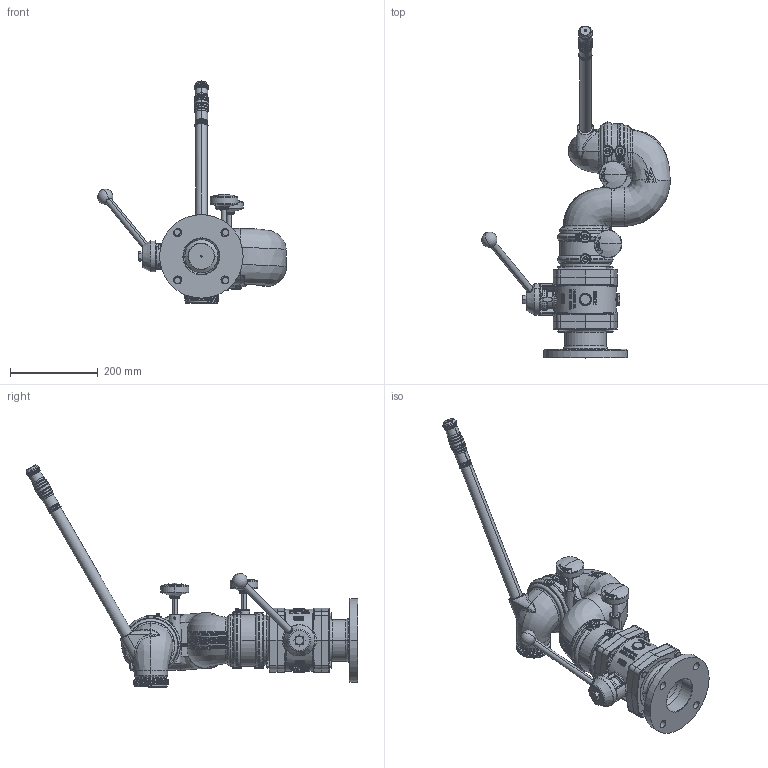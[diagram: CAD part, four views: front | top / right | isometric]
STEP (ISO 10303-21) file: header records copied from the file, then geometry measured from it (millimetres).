
FILE_DESCRIPTION((''),'2;1');
FILE_NAME('3INCH_SW0001','2012-10-25T',('jhabe'),(''),'PRO/ENGINEER BY PARAMETRIC TECHNOLOGY CORPORATION, 2011310','PRO/ENGINEER BY PARAMETRIC TECHNOLOGY CORPORATION, 2011310','');
FILE_SCHEMA(('CONFIG_CONTROL_DESIGN'));
Products named in the file (1): 3INCH_SW0001
Bounding box: 429.99 x 755.97 x 506.11 mm (x, y, z)
Surface area: 887588.5 mm2 (no closed solid volume)
Topology: 0 solids, 93 shells, 2091 faces, 8118 edges, 5969 vertices
Faces by surface type: plane 671, bspline 508, cylinder 390, cone 242, torus 241, sphere 38, extrusion 1
Entity records: 125180 total; most frequent: CARTESIAN_POINT 65915, ORIENTED_EDGE 12450, DIRECTION 10019, EDGE_CURVE 8100, VERTEX_POINT 5969, AXIS2_PLACEMENT_3D 3907, B_SPLINE_CURVE_WITH_KNOTS 3572, CIRCLE 2324
